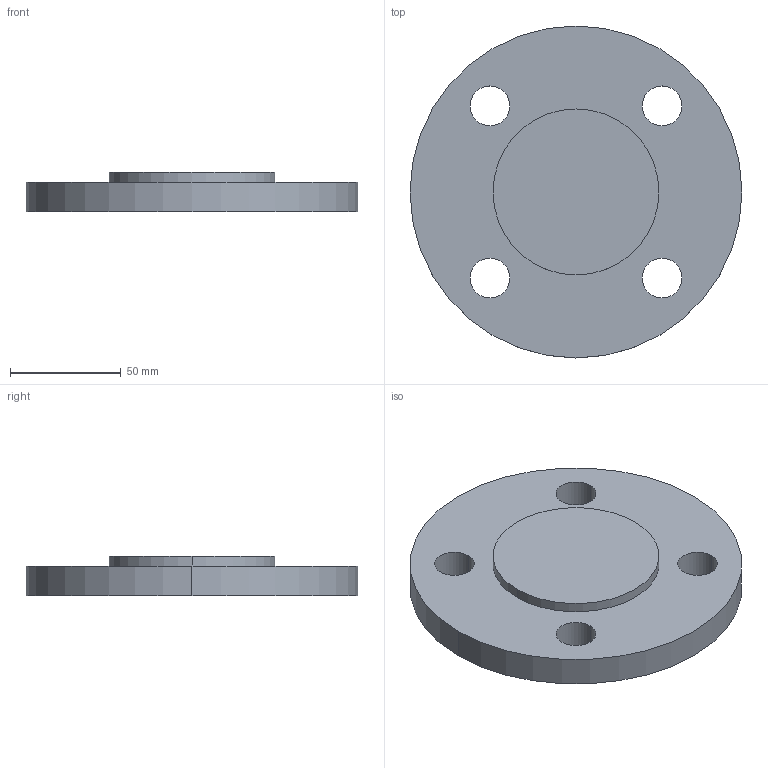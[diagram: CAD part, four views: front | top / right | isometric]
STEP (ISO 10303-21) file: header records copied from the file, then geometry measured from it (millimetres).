
FILE_DESCRIPTION (( 'STEP AP214' ), '1' );
FILE_NAME ('PN40 DN40 Type 05 - Type E Face.STEP', '2018-12-30T02:26:22', ( '' ), ( '' ), 'SwSTEP 2.0', 'SolidWorks 2019', '' );
FILE_SCHEMA (( 'AUTOMOTIVE_DESIGN' ));
Length unit declared in the file: millimetre
Products named in the file (1): PN40 DN40 Type 05 - Type E Face
Bounding box: 150 x 150 x 18 mm (x, y, z)
Volume: 244703.8 mm3; surface area: 43782.8 mm2
Topology: 1 solids, 1 shells, 15 faces, 36 edges, 24 vertices
Faces by surface type: cylinder 12, plane 3
Entity records: 504 total; most frequent: DIRECTION 92, CARTESIAN_POINT 76, ORIENTED_EDGE 72, AXIS2_PLACEMENT_3D 40, EDGE_CURVE 36, CIRCLE 24, VERTEX_POINT 24, EDGE_LOOP 24
